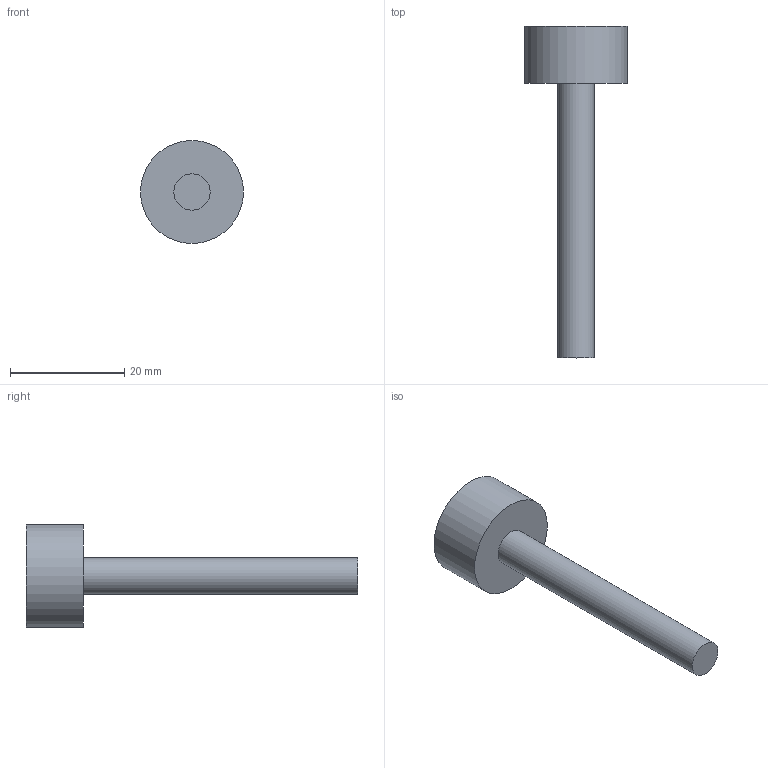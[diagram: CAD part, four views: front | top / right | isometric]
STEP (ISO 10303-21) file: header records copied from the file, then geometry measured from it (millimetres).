
FILE_DESCRIPTION(('Open CASCADE Model'),'2;1');
FILE_NAME('Open CASCADE Shape Model','2026-10-15T11:27:13',('Author'),( 'Open CASCADE'),'Open CASCADE STEP processor 7.9','Open CASCADE 7.9' ,'Unknown');
FILE_SCHEMA(('AUTOMOTIVE_DESIGN { 1 0 10303 214 1 1 1 1 }'));
Length unit declared in the file: millimetre
Products named in the file (1): Open CASCADE STEP translator 7.9 3
Bounding box: 18 x 58 x 18 mm (x, y, z)
Volume: 4064.8 mm3; surface area: 2032 mm2
Topology: 1 solids, 1 shells, 5 faces, 6 edges, 4 vertices
Faces by surface type: plane 3, cylinder 2
Full cylindrical faces by diameter (mm): 6.35 x1, 18 x1
Entity records: 192 total; most frequent: DIRECTION 34, CARTESIAN_POINT 28, ORIENTED_EDGE 12, PCURVE 12, DEFINITIONAL_REPRESENTATION 12, AXIS2_PLACEMENT_3D 10, LINE 10, VECTOR 10
